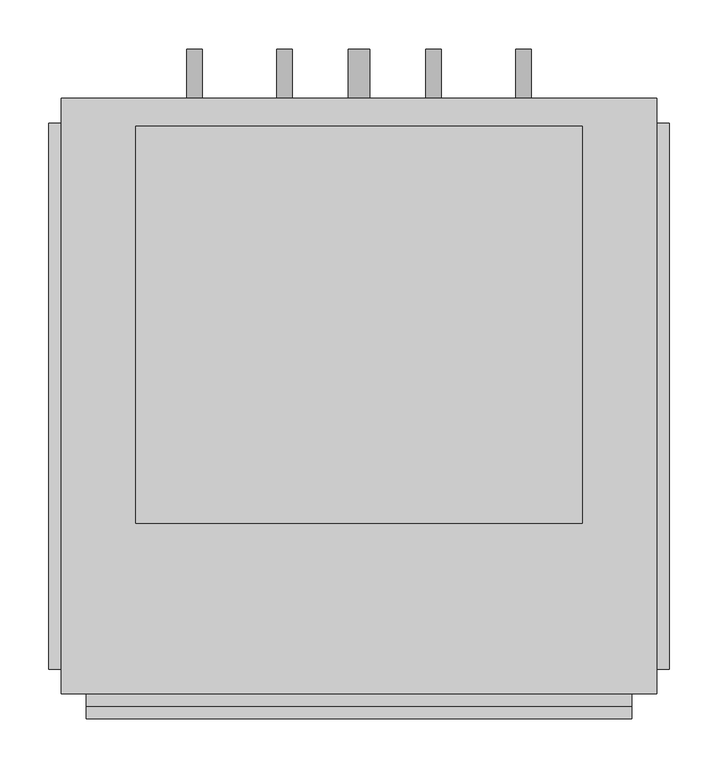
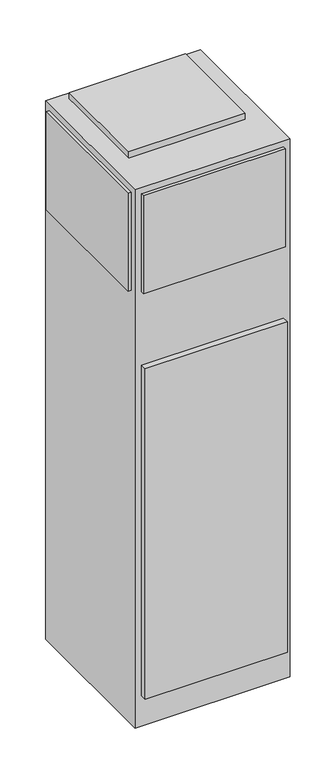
"""IFC4 building model written with IfcOpenShell, lengths in millimetres: proxy geometry, Concealed_Universal_Modular_Fan_Coil_Unit_-_42SUB_-_CARRIER_-_4-Pipe_-_NoRisers_2022 : Size 10 - 277v/60Hz/1Ph - 4/1 Coil."""

from ifc_helpers import new_model, si_unit, point, frame, frame_2d, origin, origin_with_axes, place, context, project, spatial, polyline, circle_curve, trimmed, segment, composite_curve, outline, extrude, source, transform, mapped, element, save


def mechanical_equipment_7ddb4bdb(model_context):
    return source(origin(), model_context, "Body", "SweptSolid", [
        extrude(outline(composite_curve([segment(trimmed(circle_curve(frame_2d((990.6, 625.475)), 7.9375), [point((990.6, 617.5375))], [point((990.6, 633.4125))], False, "CARTESIAN"), True, "CONTINUOUS"), segment(trimmed(circle_curve(frame_2d((990.6, 625.475)), 7.9375), [point((990.6, 633.4125))], [point((990.6, 617.5375))], False, "CARTESIAN"), True, "CONTINUOUS")], self_intersect=False)), frame((0.0, 244.475, 0.0), z_axis=(0.0, 1.0, 0.0), x_axis=(0.0, 0.0, 1.0)), (0.0, 0.0, 1.0), 50.8),
        extrude(outline(composite_curve([segment(trimmed(circle_curve(frame_2d((990.6, 533.4)), 7.9375), [point((990.6, 525.4625))], [point((990.6, 541.3375))], False, "CARTESIAN"), True, "CONTINUOUS"), segment(trimmed(circle_curve(frame_2d((990.6, 533.4)), 7.9375), [point((990.6, 541.3375))], [point((990.6, 525.4625))], False, "CARTESIAN"), True, "CONTINUOUS")], self_intersect=False)), frame((0.0, 244.475, 0.0), z_axis=(0.0, 1.0, 0.0), x_axis=(0.0, 0.0, 1.0)), (0.0, 0.0, 1.0), 50.8),
        extrude(outline(composite_curve([segment(trimmed(circle_curve(frame_2d((990.6, 381.0)), 7.9375), [point((990.6, 373.0625))], [point((990.6, 388.9375))], False, "CARTESIAN"), True, "CONTINUOUS"), segment(trimmed(circle_curve(frame_2d((990.6, 381.0)), 7.9375), [point((990.6, 388.9375))], [point((990.6, 373.0625))], False, "CARTESIAN"), True, "CONTINUOUS")], self_intersect=False)), frame((0.0, 244.475, 0.0), z_axis=(0.0, 1.0, 0.0), x_axis=(0.0, 0.0, 1.0)), (0.0, 0.0, 1.0), 50.8),
        extrude(outline(composite_curve([segment(trimmed(circle_curve(frame_2d((990.6, 288.925)), 7.9375), [point((990.6, 280.9875))], [point((990.6, 296.8625))], False, "CARTESIAN"), True, "CONTINUOUS"), segment(trimmed(circle_curve(frame_2d((990.6, 288.925)), 7.9375), [point((990.6, 296.8625))], [point((990.6, 280.9875))], False, "CARTESIAN"), True, "CONTINUOUS")], self_intersect=False)), frame((0.0, 244.475, 0.0), z_axis=(0.0, 1.0, 0.0), x_axis=(0.0, 0.0, 1.0)), (0.0, 0.0, 1.0), 50.8),
        extrude(outline(composite_curve([segment(trimmed(circle_curve(frame_2d((76.2, 457.2)), 11.1125), [point((76.2, 446.0875))], [point((76.2, 468.3125))], False, "CARTESIAN"), True, "CONTINUOUS"), segment(trimmed(circle_curve(frame_2d((76.2, 457.2)), 11.1125), [point((76.2, 468.3125))], [point((76.2, 446.0875))], False, "CARTESIAN"), True, "CONTINUOUS")], self_intersect=False)), frame((0.0, 244.475, 0.0), z_axis=(0.0, 1.0, 0.0), x_axis=(0.0, 0.0, 1.0)), (0.0, 0.0, 1.0), 50.8),
        extrude(outline(polyline([(685.8, 215.9), (685.8, -190.5), (228.6, -190.5), (228.6, 215.9), (685.8, 215.9)])), frame((0.0, 0.0, 2235.2), z_axis=(0.0, 0.0, 1.0), x_axis=(1.0, 0.0, 0.0)), (0.0, 0.0, 1.0), 25.4),
        extrude(outline(polyline([(139.7, -339.725), (139.7, 219.075), (152.4, 219.075), (152.4, -339.725), (139.7, -339.725)])), frame((0.0, 0.0, 1803.4), z_axis=(0.0, 0.0, 1.0), x_axis=(1.0, 0.0, 0.0)), (0.0, 0.0, 1.0), 406.4),
        extrude(outline(polyline([(774.7, 219.075), (774.7, -339.725), (762.0, -339.725), (762.0, 219.075), (774.7, 219.075)])), frame((0.0, 0.0, 1803.4), z_axis=(0.0, 0.0, 1.0), x_axis=(1.0, 0.0, 0.0)), (0.0, 0.0, 1.0), 406.4),
        extrude(outline(polyline([(736.6, -377.825), (177.8, -377.825), (177.8, -365.125), (736.6, -365.125), (736.6, -377.825)])), frame((0.0, 0.0, 1803.4), z_axis=(0.0, 0.0, 1.0), x_axis=(1.0, 0.0, 0.0)), (0.0, 0.0, 1.0), 406.4),
        extrude(outline(polyline([(736.6, -390.525), (177.8, -390.525), (177.8, -365.125), (736.6, -365.125), (736.6, -390.525)])), frame((0.0, 0.0, 127.0), z_axis=(0.0, 0.0, 1.0), x_axis=(1.0, 0.0, 0.0)), (0.0, 0.0, 1.0), 1371.6),
        extrude(outline(polyline([(762.0, 244.475), (762.0, -365.125), (152.4, -365.125), (152.4, 244.475), (762.0, 244.475)])), origin_with_axes(), (0.0, 0.0, 1.0), 2235.2),
    ])


if __name__ == "__main__":
    model = new_model("IFC4")
    model_context = context("Model", 3, world=origin())
    ifc_project = project(units=[si_unit("LENGTHUNIT", "METRE", prefix="MILLI")], contexts=[model_context])
    site = spatial("IfcSite", under=ifc_project)
    building = spatial("IfcBuilding", under=site)
    placement = place(None, origin())
    mechanical_equipment_shape = mechanical_equipment_7ddb4bdb(model_context)
    element("IfcBuildingElementProxy", 1, Name="Concealed_Universal_Modular_Fan_Coil_Unit_-_42SUB_-_CARRIER_-_4-Pipe_-_NoRisers_2022 : Size 10 - 277v/60Hz/1Ph - 4/1 Coil", ObjectType="Concealed_Universal_Modular_Fan_Coil_Unit_-_42SUB_-_CARRIER_-_4-Pipe_-_NoRisers_2022 : Size 10 - 277v/60Hz/1Ph - 4/1 Coil", at=placement, inside=building, context=model_context, shape_type="MappedRepresentation", body=[
        mapped(mechanical_equipment_shape, transform((0.0, 0.0, 0.0), x_axis=(1.0, 0.0, 0.0), y_axis=(0.0, 1.0, 0.0), z_axis=(0.0, 0.0, 1.0))),
    ])
    save(model, "model.ifc")
